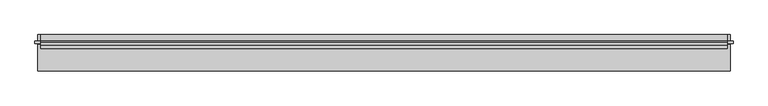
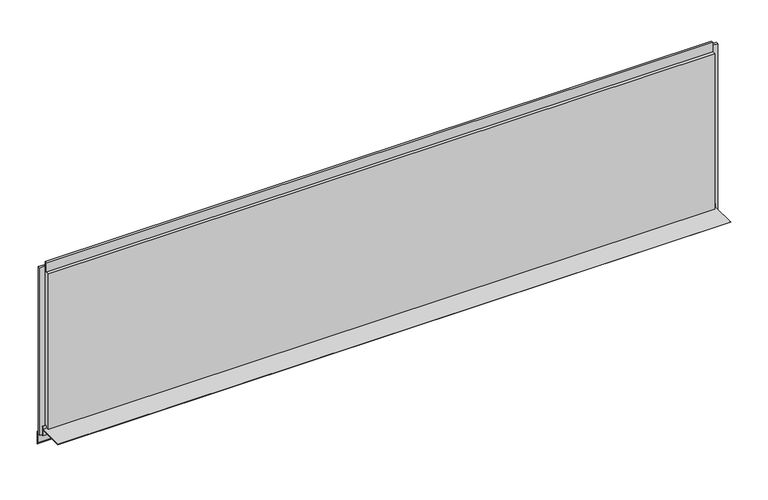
"""IFC4 building model written with IfcOpenShell, lengths in millimetres: plate geometry, Trimo_Qbiss Screen_Normal Panel-HORIZONTAL : HR - B."""

from ifc_helpers import new_model, si_unit, frame, origin, place, context, project, spatial, polyline, outline, extrude, source, transform, mapped, element, save


def plate_b156121b(model_context):
    return source(origin(), model_context, "Body", "SweptSolid", [
        extrude(outline(polyline([(66.7, 14.0835797), (67.5, 14.0835797), (67.5, -23.0), (100.0, -25.8433816), (100.0, -76.0), (87.1509533, -63.1509533), (87.7166388, -62.5852679), (99.2, -74.0686292), (99.2, -26.5764465), (66.7, -23.7330649), (66.7, 1.0), (-32.5, 1.0), (-32.5, 1.8), (66.7, 1.8), (66.7, 14.0835797)])), frame((-1268.75, 0.0, 0.0), z_axis=(1.0, 0.0, 0.0), x_axis=(0.0, 1.0, 0.0)), (0.0, 0.0, 1.0), 2537.5),
        extrude(outline(polyline([(-1259.25, 76.5978162), (-1259.25, 67.8978162), (-1278.25, 67.8978162), (-1278.25, 76.5978162), (-1259.25, 76.5978162)])), frame((0.0, 0.0, -20.0), z_axis=(0.0, 0.0, 1.0), x_axis=(1.0, 0.0, 0.0)), (0.0, 0.0, 1.0), 669.0),
        extrude(outline(polyline([(1259.25, 67.8978162), (1259.25, 76.5978162), (1278.25, 76.5978162), (1278.25, 67.8978162), (1259.25, 67.8978162)])), frame((0.0, 0.0, -20.0), z_axis=(0.0, 0.0, 1.0), x_axis=(1.0, 0.0, 0.0)), (0.0, 0.0, 1.0), 669.0),
        extrude(outline(polyline([(1256.25, 76.0), (1256.25, 71.0), (-1256.25, 71.0), (-1256.25, 76.0), (1256.25, 76.0)])), frame((0.0, 0.0, 628.0), z_axis=(0.0, 0.0, 1.0), x_axis=(1.0, 0.0, 0.0)), (0.0, 0.0, 1.0), 21.0),
        extrude(outline(polyline([(71.0, 627.0), (100.0, 627.0), (100.0, 0.0), (72.0, 0.0), (72.0, 15.5), (62.0, 15.5), (62.0, 7.0), (50.0, 7.0), (50.0, 627.0), (63.0, 627.0), (63.0, 664.5), (71.0, 664.5), (71.0, 627.0)])), frame((-1256.25, 0.0, 0.0), z_axis=(1.0, 0.0, 0.0), x_axis=(0.0, 1.0, 0.0)), (0.0, 0.0, 1.0), 2512.5),
    ])


if __name__ == "__main__":
    model = new_model("IFC4")
    model_context = context("Model", 3, world=origin())
    ifc_project = project(units=[si_unit("LENGTHUNIT", "METRE", prefix="MILLI")], contexts=[model_context])
    site = spatial("IfcSite", under=ifc_project)
    building = spatial("IfcBuilding", under=site)
    placement = place(None, origin())
    plate_shape = plate_b156121b(model_context)
    element("IfcPlate", 1, ObjectType="Trimo_Qbiss Screen_Normal Panel-HORIZONTAL : HR - B", at=placement, inside=building, context=model_context, shape_type="MappedRepresentation", body=[
        mapped(plate_shape, transform((0.0, 0.0, 0.0), x_axis=(1.0, 0.0, 0.0), y_axis=(0.0, 1.0, 0.0), z_axis=(0.0, 0.0, 1.0))),
    ])
    save(model, "model.ifc")
